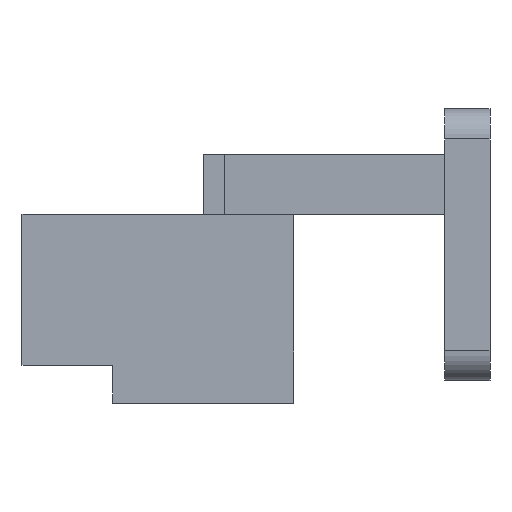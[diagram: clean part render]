
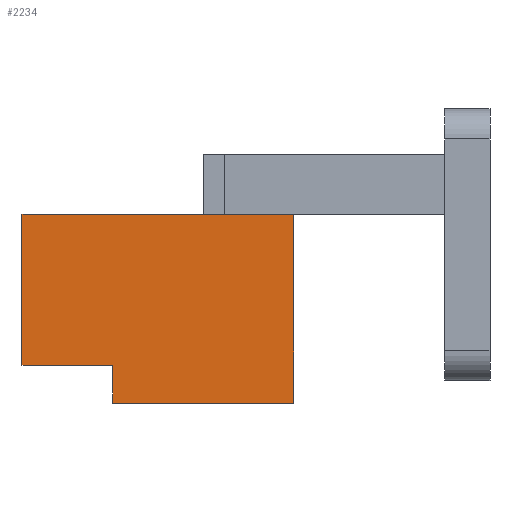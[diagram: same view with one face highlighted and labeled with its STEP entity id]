
A CAD part, front view. The second image highlights one B-rep face of the part: STEP entity #2234.
In plain terms, the highlighted planar face has unit normal (0, -1, 0).
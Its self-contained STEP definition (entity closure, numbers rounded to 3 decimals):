
#1533 = PLANE('',#1534);
#1534 = AXIS2_PLACEMENT_3D('',#1535,#1536,#1537);
#1535 = CARTESIAN_POINT('',(64.944,-19.,4.5));
#1536 = DIRECTION('',(1.,0.,0.));
#1537 = DIRECTION('',(0.,0.,1.));
#1587 = PLANE('',#1588);
#1588 = AXIS2_PLACEMENT_3D('',#1589,#1590,#1591);
#1589 = CARTESIAN_POINT('',(76.944,-19.,4.5));
#1590 = DIRECTION('',(1.,0.,0.));
#1591 = DIRECTION('',(0.,0.,1.));
#1659 = EDGE_CURVE('',#1660,#1662,#1664,.T.);
#1660 = VERTEX_POINT('',#1661);
#1661 = CARTESIAN_POINT('',(64.944,-19.,4.5));
#1662 = VERTEX_POINT('',#1663);
#1663 = CARTESIAN_POINT('',(64.944,-19.,7.));
#1664 = SURFACE_CURVE('',#1665,(#1669,#1676),.PCURVE_S1.);
#1665 = LINE('',#1666,#1667);
#1666 = CARTESIAN_POINT('',(64.944,-19.,4.5));
#1667 = VECTOR('',#1668,1.);
#1668 = DIRECTION('',(0.,0.,1.));
#1669 = PCURVE('',#1533,#1670);
#1670 = DEFINITIONAL_REPRESENTATION('',(#1671),#1675);
#1671 = LINE('',#1672,#1673);
#1672 = CARTESIAN_POINT('',(0.,0.));
#1673 = VECTOR('',#1674,1.);
#1674 = DIRECTION('',(1.,0.));
#1675 = ( GEOMETRIC_REPRESENTATION_CONTEXT(2) 
PARAMETRIC_REPRESENTATION_CONTEXT() REPRESENTATION_CONTEXT('2D SPACE',''
  ) );
#1676 = PCURVE('',#1677,#1682);
#1677 = PLANE('',#1678);
#1678 = AXIS2_PLACEMENT_3D('',#1679,#1680,#1681);
#1679 = CARTESIAN_POINT('',(64.944,-19.,4.5));
#1680 = DIRECTION('',(0.,1.,0.));
#1681 = DIRECTION('',(0.,0.,1.));
#1682 = DEFINITIONAL_REPRESENTATION('',(#1683),#1687);
#1683 = LINE('',#1684,#1685);
#1684 = CARTESIAN_POINT('',(0.,0.));
#1685 = VECTOR('',#1686,1.);
#1686 = DIRECTION('',(1.,0.));
#1687 = ( GEOMETRIC_REPRESENTATION_CONTEXT(2) 
PARAMETRIC_REPRESENTATION_CONTEXT() REPRESENTATION_CONTEXT('2D SPACE',''
  ) );
#1705 = PLANE('',#1706);
#1706 = AXIS2_PLACEMENT_3D('',#1707,#1708,#1709);
#1707 = CARTESIAN_POINT('',(64.944,-19.,4.5));
#1708 = DIRECTION('',(0.,0.,1.));
#1709 = DIRECTION('',(1.,0.,0.));
#1825 = PLANE('',#1826);
#1826 = AXIS2_PLACEMENT_3D('',#1827,#1828,#1829);
#1827 = CARTESIAN_POINT('',(58.944,-19.,7.));
#1828 = DIRECTION('',(0.,0.,1.));
#1829 = DIRECTION('',(1.,0.,0.));
#1878 = PLANE('',#1879);
#1879 = AXIS2_PLACEMENT_3D('',#1880,#1881,#1882);
#1880 = CARTESIAN_POINT('',(58.944,-19.,7.));
#1881 = DIRECTION('',(1.,0.,0.));
#1882 = DIRECTION('',(0.,0.,1.));
#1906 = PLANE('',#1907);
#1907 = AXIS2_PLACEMENT_3D('',#1908,#1909,#1910);
#1908 = CARTESIAN_POINT('',(58.944,-19.,17.));
#1909 = DIRECTION('',(0.,0.,1.));
#1910 = DIRECTION('',(1.,0.,0.));
#2049 = EDGE_CURVE('',#2050,#2052,#2054,.T.);
#2050 = VERTEX_POINT('',#2051);
#2051 = CARTESIAN_POINT('',(76.944,-19.,4.5));
#2052 = VERTEX_POINT('',#2053);
#2053 = CARTESIAN_POINT('',(76.944,-19.,17.));
#2054 = SURFACE_CURVE('',#2055,(#2059,#2066),.PCURVE_S1.);
#2055 = LINE('',#2056,#2057);
#2056 = CARTESIAN_POINT('',(76.944,-19.,4.5));
#2057 = VECTOR('',#2058,1.);
#2058 = DIRECTION('',(0.,0.,1.));
#2059 = PCURVE('',#1587,#2060);
#2060 = DEFINITIONAL_REPRESENTATION('',(#2061),#2065);
#2061 = LINE('',#2062,#2063);
#2062 = CARTESIAN_POINT('',(0.,0.));
#2063 = VECTOR('',#2064,1.);
#2064 = DIRECTION('',(1.,0.));
#2065 = ( GEOMETRIC_REPRESENTATION_CONTEXT(2) 
PARAMETRIC_REPRESENTATION_CONTEXT() REPRESENTATION_CONTEXT('2D SPACE',''
  ) );
#2066 = PCURVE('',#1677,#2067);
#2067 = DEFINITIONAL_REPRESENTATION('',(#2068),#2072);
#2068 = LINE('',#2069,#2070);
#2069 = CARTESIAN_POINT('',(0.,12.));
#2070 = VECTOR('',#2071,1.);
#2071 = DIRECTION('',(1.,0.));
#2072 = ( GEOMETRIC_REPRESENTATION_CONTEXT(2) 
PARAMETRIC_REPRESENTATION_CONTEXT() REPRESENTATION_CONTEXT('2D SPACE',''
  ) );
#2234 = ADVANCED_FACE('',(#2235),#1677,.F.);
#2235 = FACE_BOUND('',#2236,.F.);
#2236 = EDGE_LOOP('',(#2237,#2238,#2259,#2260,#2283,#2306));
#2237 = ORIENTED_EDGE('',*,*,#2049,.F.);
#2238 = ORIENTED_EDGE('',*,*,#2239,.F.);
#2239 = EDGE_CURVE('',#1660,#2050,#2240,.T.);
#2240 = SURFACE_CURVE('',#2241,(#2245,#2252),.PCURVE_S1.);
#2241 = LINE('',#2242,#2243);
#2242 = CARTESIAN_POINT('',(64.944,-19.,4.5));
#2243 = VECTOR('',#2244,1.);
#2244 = DIRECTION('',(1.,0.,0.));
#2245 = PCURVE('',#1677,#2246);
#2246 = DEFINITIONAL_REPRESENTATION('',(#2247),#2251);
#2247 = LINE('',#2248,#2249);
#2248 = CARTESIAN_POINT('',(0.,0.));
#2249 = VECTOR('',#2250,1.);
#2250 = DIRECTION('',(0.,1.));
#2251 = ( GEOMETRIC_REPRESENTATION_CONTEXT(2) 
PARAMETRIC_REPRESENTATION_CONTEXT() REPRESENTATION_CONTEXT('2D SPACE',''
  ) );
#2252 = PCURVE('',#1705,#2253);
#2253 = DEFINITIONAL_REPRESENTATION('',(#2254),#2258);
#2254 = LINE('',#2255,#2256);
#2255 = CARTESIAN_POINT('',(0.,0.));
#2256 = VECTOR('',#2257,1.);
#2257 = DIRECTION('',(1.,0.));
#2258 = ( GEOMETRIC_REPRESENTATION_CONTEXT(2) 
PARAMETRIC_REPRESENTATION_CONTEXT() REPRESENTATION_CONTEXT('2D SPACE',''
  ) );
#2259 = ORIENTED_EDGE('',*,*,#1659,.T.);
#2260 = ORIENTED_EDGE('',*,*,#2261,.F.);
#2261 = EDGE_CURVE('',#2262,#1662,#2264,.T.);
#2262 = VERTEX_POINT('',#2263);
#2263 = CARTESIAN_POINT('',(58.944,-19.,7.));
#2264 = SURFACE_CURVE('',#2265,(#2269,#2276),.PCURVE_S1.);
#2265 = LINE('',#2266,#2267);
#2266 = CARTESIAN_POINT('',(58.944,-19.,7.));
#2267 = VECTOR('',#2268,1.);
#2268 = DIRECTION('',(1.,0.,0.));
#2269 = PCURVE('',#1677,#2270);
#2270 = DEFINITIONAL_REPRESENTATION('',(#2271),#2275);
#2271 = LINE('',#2272,#2273);
#2272 = CARTESIAN_POINT('',(2.5,-6.));
#2273 = VECTOR('',#2274,1.);
#2274 = DIRECTION('',(0.,1.));
#2275 = ( GEOMETRIC_REPRESENTATION_CONTEXT(2) 
PARAMETRIC_REPRESENTATION_CONTEXT() REPRESENTATION_CONTEXT('2D SPACE',''
  ) );
#2276 = PCURVE('',#1825,#2277);
#2277 = DEFINITIONAL_REPRESENTATION('',(#2278),#2282);
#2278 = LINE('',#2279,#2280);
#2279 = CARTESIAN_POINT('',(0.,0.));
#2280 = VECTOR('',#2281,1.);
#2281 = DIRECTION('',(1.,0.));
#2282 = ( GEOMETRIC_REPRESENTATION_CONTEXT(2) 
PARAMETRIC_REPRESENTATION_CONTEXT() REPRESENTATION_CONTEXT('2D SPACE',''
  ) );
#2283 = ORIENTED_EDGE('',*,*,#2284,.T.);
#2284 = EDGE_CURVE('',#2262,#2285,#2287,.T.);
#2285 = VERTEX_POINT('',#2286);
#2286 = CARTESIAN_POINT('',(58.944,-19.,17.));
#2287 = SURFACE_CURVE('',#2288,(#2292,#2299),.PCURVE_S1.);
#2288 = LINE('',#2289,#2290);
#2289 = CARTESIAN_POINT('',(58.944,-19.,7.));
#2290 = VECTOR('',#2291,1.);
#2291 = DIRECTION('',(0.,0.,1.));
#2292 = PCURVE('',#1677,#2293);
#2293 = DEFINITIONAL_REPRESENTATION('',(#2294),#2298);
#2294 = LINE('',#2295,#2296);
#2295 = CARTESIAN_POINT('',(2.5,-6.));
#2296 = VECTOR('',#2297,1.);
#2297 = DIRECTION('',(1.,0.));
#2298 = ( GEOMETRIC_REPRESENTATION_CONTEXT(2) 
PARAMETRIC_REPRESENTATION_CONTEXT() REPRESENTATION_CONTEXT('2D SPACE',''
  ) );
#2299 = PCURVE('',#1878,#2300);
#2300 = DEFINITIONAL_REPRESENTATION('',(#2301),#2305);
#2301 = LINE('',#2302,#2303);
#2302 = CARTESIAN_POINT('',(0.,0.));
#2303 = VECTOR('',#2304,1.);
#2304 = DIRECTION('',(1.,0.));
#2305 = ( GEOMETRIC_REPRESENTATION_CONTEXT(2) 
PARAMETRIC_REPRESENTATION_CONTEXT() REPRESENTATION_CONTEXT('2D SPACE',''
  ) );
#2306 = ORIENTED_EDGE('',*,*,#2307,.T.);
#2307 = EDGE_CURVE('',#2285,#2052,#2308,.T.);
#2308 = SURFACE_CURVE('',#2309,(#2313,#2320),.PCURVE_S1.);
#2309 = LINE('',#2310,#2311);
#2310 = CARTESIAN_POINT('',(58.944,-19.,17.));
#2311 = VECTOR('',#2312,1.);
#2312 = DIRECTION('',(1.,0.,0.));
#2313 = PCURVE('',#1677,#2314);
#2314 = DEFINITIONAL_REPRESENTATION('',(#2315),#2319);
#2315 = LINE('',#2316,#2317);
#2316 = CARTESIAN_POINT('',(12.5,-6.));
#2317 = VECTOR('',#2318,1.);
#2318 = DIRECTION('',(0.,1.));
#2319 = ( GEOMETRIC_REPRESENTATION_CONTEXT(2) 
PARAMETRIC_REPRESENTATION_CONTEXT() REPRESENTATION_CONTEXT('2D SPACE',''
  ) );
#2320 = PCURVE('',#1906,#2321);
#2321 = DEFINITIONAL_REPRESENTATION('',(#2322),#2326);
#2322 = LINE('',#2323,#2324);
#2323 = CARTESIAN_POINT('',(0.,0.));
#2324 = VECTOR('',#2325,1.);
#2325 = DIRECTION('',(1.,0.));
#2326 = ( GEOMETRIC_REPRESENTATION_CONTEXT(2) 
PARAMETRIC_REPRESENTATION_CONTEXT() REPRESENTATION_CONTEXT('2D SPACE',''
  ) );
